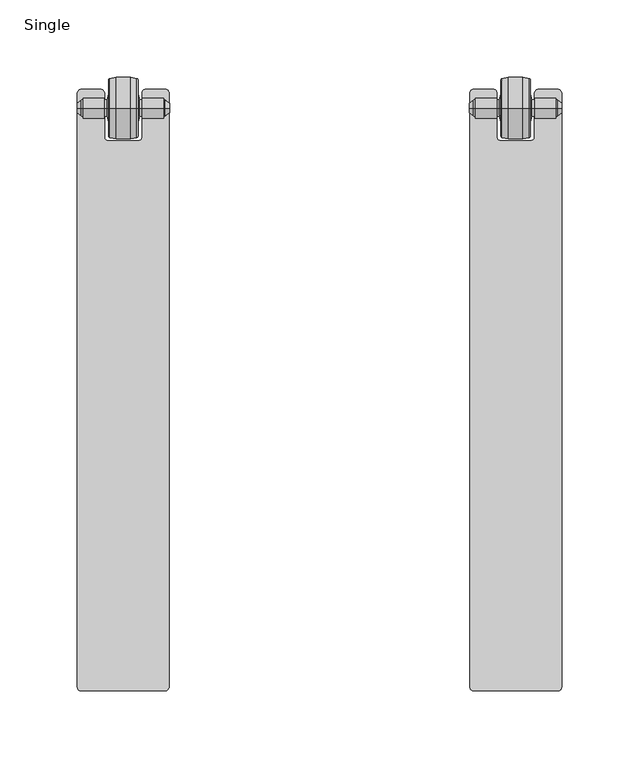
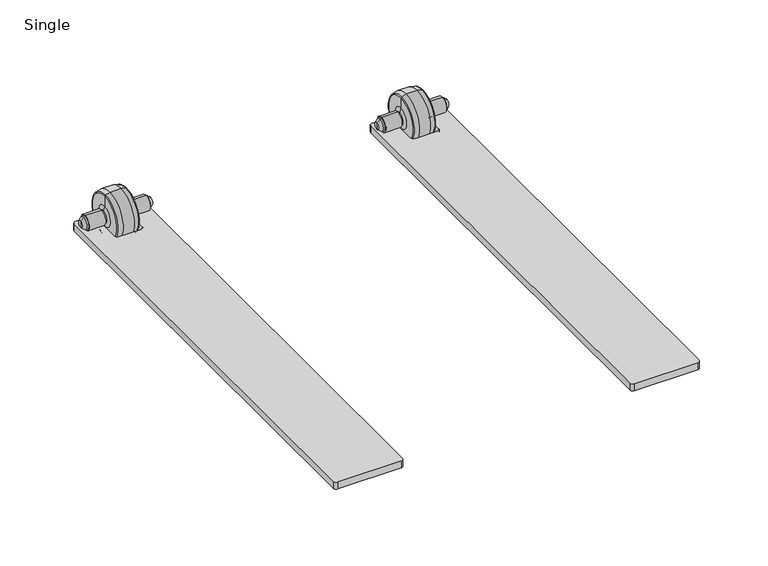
"""IFC4 building model written with IfcOpenShell, lengths in millimetres: furniture geometry, SmithSystem_AM_Seating_Education_Flowform_LearnLounge_MobileKit_Single : Single."""

from ifc_helpers import new_model, si_unit, point, frame, frame_2d, origin, place, context, project, spatial, polyline, circle_curve, ellipse_curve, trimmed, segment, composite_curve, outline, extrude, source, transform, mapped, element, save
from ifc_brep_helpers import plane_surface, cylinder_surface, revolved_surface, advanced_brep


def single_6dff62dc(model_context):
    return source(origin(), model_context, "Body", "SolidModel", [
        advanced_brep(
        [(-97.2897845, 203.2631744, 19.404882), (-97.2897845, 203.2631744, 25.6152221), (-97.2897845, 203.2631744, 22.510052), (-100.0247812, 203.2631744, 17.3341849), (-100.0247812, 203.2631744, 27.6859191), (-101.2986618, 203.2631744, 17.0165708), (-101.2986618, 203.2631744, 28.0035332), (-101.2986618, 203.2631744, 16.0005885), (-101.2986618, 203.2631744, 29.0195155), (-114.9542691, 203.2631744, 16.0005885), (-114.9542691, 203.2631744, 29.0195155), (-114.9542691, 203.2631744, 17.0204517), (-114.9542691, 203.2631744, 27.9996523), (-116.787195, 203.2631744, 17.0204517), (-116.787195, 203.2631744, 27.9996523), (-117.8042435, 203.2631744, 13.367798), (-117.8042435, 203.2631744, 31.652306), (-117.8042435, 203.2631744, 4.1761693), (-117.8042435, 203.2631744, 40.8439347), (-118.510082, 203.2631744, 3.2868443), (-118.510082, 203.2631744, 41.7332597), (-122.5542927, 203.2631744, 2.3439843), (-122.5542927, 203.2631744, 42.6761197), (-132.0543427, 203.2631744, 2.3439843), (-132.0543427, 203.2631744, 42.6761197), (-136.0985534, 203.2631744, 3.2868443), (-136.0985534, 203.2631744, 41.7332597), (-136.8043919, 203.2631744, 4.1761693), (-136.8043919, 203.2631744, 40.8439347), (-136.8043919, 203.2631744, 13.367798), (-136.8043919, 203.2631744, 31.652306), (-137.8214403, 203.2631744, 17.0204517), (-137.8214403, 203.2631744, 27.9996523), (-139.6543663, 203.2631744, 17.0204517), (-139.6543663, 203.2631744, 27.9996523), (-139.6543663, 203.2631744, 16.0005885), (-139.6543663, 203.2631744, 29.0195155), (-153.3099735, 203.2631744, 16.0005885), (-153.3099735, 203.2631744, 29.0195155), (-153.3099735, 203.2631744, 17.0165708), (-153.3099735, 203.2631744, 28.0035332), (-154.5838541, 203.2631744, 17.3341849), (-154.5838541, 203.2631744, 27.6859191), (-157.3188509, 203.2631744, 19.404882), (-157.3188509, 203.2631744, 25.6152221), (-157.3188509, 203.2631744, 22.510052)],
        [
            (0, 1, circle_curve(frame((-97.2897845, 203.2631744, 22.510052), z_axis=(1.0, 0.0, 0.0), x_axis=(0.0, 0.0, 1.0)), 3.1051701)),
            (1, 2),
            (2, 0),
            (1, 0, circle_curve(frame((-97.2897845, 203.2631744, 22.510052), z_axis=(1.0, 0.0, 0.0), x_axis=(0.0, 0.0, 1.0)), 3.1051701)),
            (3, 4, circle_curve(frame((-100.0247812, 203.2631744, 22.510052), z_axis=(1.0, 0.0, 0.0), x_axis=(0.0, 0.0, 1.0)), 5.1758671)),
            (4, 1),
            (0, 3),
            (4, 3, circle_curve(frame((-100.0247812, 203.2631744, 22.510052), z_axis=(1.0, 0.0, 0.0), x_axis=(0.0, 0.0, 1.0)), 5.1758671)),
            (5, 6, circle_curve(frame((-101.2986618, 203.2631744, 22.510052), z_axis=(1.0, 0.0, 0.0), x_axis=(0.0, 0.0, 1.0)), 5.4934812)),
            (6, 4),
            (3, 5),
            (6, 5, circle_curve(frame((-101.2986618, 203.2631744, 22.510052), z_axis=(1.0, 0.0, 0.0), x_axis=(0.0, 0.0, 1.0)), 5.4934812)),
            (7, 8, circle_curve(frame((-101.2986618, 203.2631744, 22.510052), z_axis=(1.0, 0.0, 0.0), x_axis=(0.0, 0.0, 1.0)), 6.5094635)),
            (8, 6),
            (5, 7),
            (8, 7, circle_curve(frame((-101.2986618, 203.2631744, 22.510052), z_axis=(1.0, 0.0, 0.0), x_axis=(0.0, 0.0, 1.0)), 6.5094635)),
            (9, 10, circle_curve(frame((-114.9542691, 203.2631744, 22.510052), z_axis=(1.0, 0.0, 0.0), x_axis=(0.0, 0.0, 1.0)), 6.5094635)),
            (10, 8),
            (7, 9),
            (10, 9, circle_curve(frame((-114.9542691, 203.2631744, 22.510052), z_axis=(1.0, 0.0, 0.0), x_axis=(0.0, 0.0, 1.0)), 6.5094635)),
            (11, 12, circle_curve(frame((-114.9542691, 203.2631744, 22.510052), z_axis=(1.0, 0.0, 0.0), x_axis=(0.0, 0.0, 1.0)), 5.4896003)),
            (12, 10),
            (9, 11),
            (12, 11, circle_curve(frame((-114.9542691, 203.2631744, 22.510052), z_axis=(1.0, 0.0, 0.0), x_axis=(0.0, 0.0, 1.0)), 5.4896003)),
            (13, 14, circle_curve(frame((-116.787195, 203.2631744, 22.510052), z_axis=(1.0, 0.0, 0.0), x_axis=(0.0, 0.0, 1.0)), 5.4896003)),
            (14, 12),
            (11, 13),
            (14, 13, circle_curve(frame((-116.787195, 203.2631744, 22.510052), z_axis=(1.0, 0.0, 0.0), x_axis=(0.0, 0.0, 1.0)), 5.4896003)),
            (15, 16, circle_curve(frame((-117.8042435, 203.2631744, 22.510052), z_axis=(1.0, 0.0, 0.0), x_axis=(0.0, 0.0, 1.0)), 9.142254)),
            (16, 14),
            (13, 15),
            (16, 15, circle_curve(frame((-117.8042435, 203.2631744, 22.510052), z_axis=(1.0, 0.0, 0.0), x_axis=(0.0, 0.0, 1.0)), 9.142254)),
            (17, 18, circle_curve(frame((-117.8042435, 203.2631744, 22.510052), z_axis=(1.0, 0.0, 0.0), x_axis=(0.0, 0.0, 1.0)), 18.3338827)),
            (18, 16),
            (15, 17),
            (18, 17, circle_curve(frame((-117.8042435, 203.2631744, 22.510052), z_axis=(1.0, 0.0, 0.0), x_axis=(0.0, 0.0, 1.0)), 18.3338827)),
            (19, 20, circle_curve(frame((-118.510082, 203.2631744, 22.510052), z_axis=(1.0, 0.0, 0.0), x_axis=(0.0, 0.0, 1.0)), 19.2232077)),
            (20, 18, circle_curve(frame((-118.7174176, 203.2631744, 40.8439347), z_axis=(0.0, 1.0, 0.0), x_axis=(1.0, 0.0, 0.0)), 0.9131741)),
            (17, 19, circle_curve(frame((-118.7174176, 203.2631744, 4.1761693), z_axis=(0.0, 1.0, 0.0), x_axis=(1.0, 0.0, 0.0)), 0.9131741)),
            (20, 19, circle_curve(frame((-118.510082, 203.2631744, 22.510052), z_axis=(1.0, 0.0, 0.0), x_axis=(0.0, 0.0, 1.0)), 19.2232077)),
            (21, 22, circle_curve(frame((-122.5542927, 203.2631744, 22.510052), z_axis=(1.0, 0.0, 0.0), x_axis=(0.0, 0.0, 1.0)), 20.1660677)),
            (22, 20),
            (19, 21),
            (22, 21, circle_curve(frame((-122.5542927, 203.2631744, 22.510052), z_axis=(1.0, 0.0, 0.0), x_axis=(0.0, 0.0, 1.0)), 20.1660677)),
            (23, 24, circle_curve(frame((-132.0543427, 203.2631744, 22.510052), z_axis=(1.0, 0.0, 0.0), x_axis=(0.0, 0.0, 1.0)), 20.1660677)),
            (24, 22),
            (21, 23),
            (24, 23, circle_curve(frame((-132.0543427, 203.2631744, 22.510052), z_axis=(1.0, 0.0, 0.0), x_axis=(0.0, 0.0, 1.0)), 20.1660677)),
            (25, 26, circle_curve(frame((-136.0985534, 203.2631744, 22.510052), z_axis=(1.0, 0.0, 0.0), x_axis=(0.0, 0.0, 1.0)), 19.2232077)),
            (26, 24),
            (23, 25),
            (26, 25, circle_curve(frame((-136.0985534, 203.2631744, 22.510052), z_axis=(1.0, 0.0, 0.0), x_axis=(0.0, 0.0, 1.0)), 19.2232077)),
            (27, 28, circle_curve(frame((-136.8043919, 203.2631744, 22.510052), z_axis=(1.0, 0.0, 0.0), x_axis=(0.0, 0.0, 1.0)), 18.3338827)),
            (28, 26, circle_curve(frame((-135.8912178, 203.2631744, 40.8439347), z_axis=(0.0, 1.0, 0.0), x_axis=(1.0, 0.0, 0.0)), 0.9131741)),
            (25, 27, circle_curve(frame((-135.8912178, 203.2631744, 4.1761693), z_axis=(0.0, 1.0, 0.0), x_axis=(1.0, 0.0, 0.0)), 0.9131741)),
            (28, 27, circle_curve(frame((-136.8043919, 203.2631744, 22.510052), z_axis=(1.0, 0.0, 0.0), x_axis=(0.0, 0.0, 1.0)), 18.3338827)),
            (29, 30, circle_curve(frame((-136.8043919, 203.2631744, 22.510052), z_axis=(1.0, 0.0, 0.0), x_axis=(0.0, 0.0, 1.0)), 9.142254)),
            (30, 28),
            (27, 29),
            (30, 29, circle_curve(frame((-136.8043919, 203.2631744, 22.510052), z_axis=(1.0, 0.0, 0.0), x_axis=(0.0, 0.0, 1.0)), 9.142254)),
            (31, 32, circle_curve(frame((-137.8214403, 203.2631744, 22.510052), z_axis=(1.0, 0.0, 0.0), x_axis=(0.0, 0.0, 1.0)), 5.4896003)),
            (32, 30),
            (29, 31),
            (32, 31, circle_curve(frame((-137.8214403, 203.2631744, 22.510052), z_axis=(1.0, 0.0, 0.0), x_axis=(0.0, 0.0, 1.0)), 5.4896003)),
            (33, 34, circle_curve(frame((-139.6543663, 203.2631744, 22.510052), z_axis=(1.0, 0.0, 0.0), x_axis=(0.0, 0.0, 1.0)), 5.4896003)),
            (34, 32),
            (31, 33),
            (34, 33, circle_curve(frame((-139.6543663, 203.2631744, 22.510052), z_axis=(1.0, 0.0, 0.0), x_axis=(0.0, 0.0, 1.0)), 5.4896003)),
            (35, 36, circle_curve(frame((-139.6543663, 203.2631744, 22.510052), z_axis=(1.0, 0.0, 0.0), x_axis=(0.0, 0.0, 1.0)), 6.5094635)),
            (36, 34),
            (33, 35),
            (36, 35, circle_curve(frame((-139.6543663, 203.2631744, 22.510052), z_axis=(1.0, 0.0, 0.0), x_axis=(0.0, 0.0, 1.0)), 6.5094635)),
            (37, 38, circle_curve(frame((-153.3099735, 203.2631744, 22.510052), z_axis=(1.0, 0.0, 0.0), x_axis=(0.0, 0.0, 1.0)), 6.5094635)),
            (38, 36),
            (35, 37),
            (38, 37, circle_curve(frame((-153.3099735, 203.2631744, 22.510052), z_axis=(1.0, 0.0, 0.0), x_axis=(0.0, 0.0, 1.0)), 6.5094635)),
            (39, 40, circle_curve(frame((-153.3099735, 203.2631744, 22.510052), z_axis=(1.0, 0.0, 0.0), x_axis=(0.0, 0.0, 1.0)), 5.4934812)),
            (40, 38),
            (37, 39),
            (40, 39, circle_curve(frame((-153.3099735, 203.2631744, 22.510052), z_axis=(1.0, 0.0, 0.0), x_axis=(0.0, 0.0, 1.0)), 5.4934812)),
            (41, 42, circle_curve(frame((-154.5838541, 203.2631744, 22.510052), z_axis=(1.0, 0.0, 0.0), x_axis=(0.0, 0.0, 1.0)), 5.1758671)),
            (42, 40),
            (39, 41),
            (42, 41, circle_curve(frame((-154.5838541, 203.2631744, 22.510052), z_axis=(1.0, 0.0, 0.0), x_axis=(0.0, 0.0, 1.0)), 5.1758671)),
            (43, 44, circle_curve(frame((-157.3188509, 203.2631744, 22.510052), z_axis=(1.0, 0.0, 0.0), x_axis=(0.0, 0.0, 1.0)), 3.1051701)),
            (44, 42),
            (41, 43),
            (44, 43, circle_curve(frame((-157.3188509, 203.2631744, 22.510052), z_axis=(1.0, 0.0, 0.0), x_axis=(0.0, 0.0, 1.0)), 3.1051701)),
            (45, 44),
            (43, 45),
        ],
        [
            plane_surface(frame((-97.2897845, 203.2631744, 22.510052), z_axis=(1.0, 0.0, 0.0), x_axis=(0.0, 0.0, 1.0))),
            revolved_surface(polyline([(-97.2897845, 203.2631744, 25.6152221), (-100.0247812, 203.2631744, 27.6859191)]), (-161.4201897, 203.2631744, 22.510052), (-1.0, 0.0, 0.0)),
            revolved_surface(polyline([(-100.0247812, 203.2631744, 27.6859191), (-101.2986618, 203.2631744, 28.0035332)]), (-161.4201897, 203.2631744, 22.510052), (-1.0, 0.0, 0.0)),
            plane_surface(frame((-101.2986618, 203.2631744, 22.510052), z_axis=(1.0, 0.0, 0.0), x_axis=(0.0, 0.0, 1.0))),
            cylinder_surface(frame((-161.4201897, 203.2631744, 22.510052), z_axis=(-1.0, 0.0, 0.0), x_axis=(0.0, 0.0, 1.0)), 6.5094635),
            plane_surface(frame((-114.9542691, 203.2631744, 22.510052), z_axis=(-1.0, 0.0, 0.0), x_axis=(0.0, 0.0, 1.0))),
            cylinder_surface(frame((-161.4201897, 203.2631744, 22.510052), z_axis=(-1.0, 0.0, 0.0), x_axis=(0.0, 0.0, 1.0)), 5.4896003),
            revolved_surface(polyline([(-116.787195, 203.2631744, 27.9996523), (-117.8042435, 203.2631744, 31.652306)]), (-161.4201897, 203.2631744, 22.510052), (-1.0, 0.0, 0.0)),
            plane_surface(frame((-117.8042435, 203.2631744, 22.510052), z_axis=(1.0, 0.0, 0.0), x_axis=(0.0, 0.0, 1.0))),
            revolved_surface(trimmed(ellipse_curve(frame((-118.7174176, 203.2631744, 40.8439347), z_axis=(0.0, -1.0, 0.0), x_axis=(1.0, 0.0, 0.0)), 0.9131741, 0.9131741), [point((-117.8042435, 203.2631744, 40.8439347))], [point((-118.510082, 203.2631744, 41.7332597))], True, "CARTESIAN"), (-161.4201897, 203.2631744, 22.510052), (-1.0, 0.0, 0.0)),
            revolved_surface(polyline([(-118.510082, 203.2631744, 41.7332597), (-122.5542927, 203.2631744, 42.6761197)]), (-161.4201897, 203.2631744, 22.510052), (-1.0, 0.0, 0.0)),
            cylinder_surface(frame((-161.4201897, 203.2631744, 22.510052), z_axis=(-1.0, 0.0, 0.0), x_axis=(0.0, 0.0, 1.0)), 20.1660677),
            revolved_surface(polyline([(-132.0543427, 203.2631744, 42.6761197), (-136.0985534, 203.2631744, 41.7332597)]), (-161.4201897, 203.2631744, 22.510052), (-1.0, 0.0, 0.0)),
            revolved_surface(trimmed(ellipse_curve(frame((-135.8912178, 203.2631744, 40.8439347), z_axis=(0.0, -1.0, 0.0), x_axis=(1.0, 0.0, 0.0)), 0.9131741, 0.9131741), [point((-136.0985534, 203.2631744, 41.7332597))], [point((-136.8043919, 203.2631744, 40.8439347))], True, "CARTESIAN"), (-161.4201897, 203.2631744, 22.510052), (-1.0, 0.0, 0.0)),
            plane_surface(frame((-136.8043919, 203.2631744, 22.510052), z_axis=(-1.0, 0.0, 0.0), x_axis=(0.0, 0.0, 1.0))),
            revolved_surface(polyline([(-136.8043919, 203.2631744, 31.652306), (-137.8214403, 203.2631744, 27.9996523)]), (-161.4201897, 203.2631744, 22.510052), (-1.0, 0.0, 0.0)),
            plane_surface(frame((-139.6543663, 203.2631744, 22.510052), z_axis=(1.0, 0.0, 0.0), x_axis=(0.0, 0.0, 1.0))),
            plane_surface(frame((-153.3099735, 203.2631744, 22.510052), z_axis=(-1.0, 0.0, 0.0), x_axis=(0.0, 0.0, 1.0))),
            revolved_surface(polyline([(-153.3099735, 203.2631744, 28.0035332), (-154.5838541, 203.2631744, 27.6859191)]), (-161.4201897, 203.2631744, 22.510052), (-1.0, 0.0, 0.0)),
            revolved_surface(polyline([(-154.5838541, 203.2631744, 27.6859191), (-157.3188509, 203.2631744, 25.6152221)]), (-161.4201897, 203.2631744, 22.510052), (-1.0, 0.0, 0.0)),
            plane_surface(frame((-157.3188509, 203.2631744, 22.510052), z_axis=(-1.0, 0.0, 0.0), x_axis=(0.0, 0.0, 1.0))),
        ],
        [
            (0, [[1, 2, 3]]),
            (0, [[4, -3, -2]]),
            (1, [[5, 6, -1, 7]]),
            (1, [[8, -7, -4, -6]]),
            (2, [[9, 10, -5, 11]]),
            (2, [[12, -11, -8, -10]]),
            (3, [[13, 14, -9, 15]]),
            (3, [[16, -15, -12, -14]]),
            (4, [[17, 18, -13, 19]]),
            (4, [[20, -19, -16, -18]]),
            (5, [[21, 22, -17, 23]]),
            (5, [[24, -23, -20, -22]]),
            (6, [[25, 26, -21, 27]]),
            (6, [[28, -27, -24, -26]]),
            (7, [[29, 30, -25, 31]]),
            (7, [[32, -31, -28, -30]]),
            (8, [[33, 34, -29, 35]]),
            (8, [[36, -35, -32, -34]]),
            (9, [[37, 38, -33, 39]]),
            (9, [[40, -39, -36, -38]]),
            (10, [[41, 42, -37, 43]]),
            (10, [[44, -43, -40, -42]]),
            (11, [[45, 46, -41, 47]]),
            (11, [[48, -47, -44, -46]]),
            (12, [[49, 50, -45, 51]]),
            (12, [[52, -51, -48, -50]]),
            (13, [[53, 54, -49, 55]]),
            (13, [[56, -55, -52, -54]]),
            (14, [[57, 58, -53, 59]]),
            (14, [[60, -59, -56, -58]]),
            (15, [[61, 62, -57, 63]]),
            (15, [[64, -63, -60, -62]]),
            (6, [[65, 66, -61, 67]]),
            (6, [[68, -67, -64, -66]]),
            (16, [[69, 70, -65, 71]]),
            (16, [[72, -71, -68, -70]]),
            (4, [[73, 74, -69, 75]]),
            (4, [[76, -75, -72, -74]]),
            (17, [[77, 78, -73, 79]]),
            (17, [[80, -79, -76, -78]]),
            (18, [[81, 82, -77, 83]]),
            (18, [[84, -83, -80, -82]]),
            (19, [[85, 86, -81, 87]]),
            (19, [[88, -87, -84, -86]]),
            (20, [[89, -85, 90]]),
            (20, [[-90, -88, -89]]),
        ],
    ),
        advanced_brep(
        [(157.3188509, 203.2631744, 19.404882), (157.3188509, 203.2631744, 25.6152221), (157.3188509, 203.2631744, 22.510052), (154.5838541, 203.2631744, 17.3341849), (154.5838541, 203.2631744, 27.6859191), (153.3099735, 203.2631744, 17.0165708), (153.3099735, 203.2631744, 28.0035332), (153.3099735, 203.2631744, 16.0005885), (153.3099735, 203.2631744, 29.0195155), (139.6543663, 203.2631744, 16.0005885), (139.6543663, 203.2631744, 29.0195155), (139.6543663, 203.2631744, 17.0204517), (139.6543663, 203.2631744, 27.9996523), (137.8214403, 203.2631744, 17.0204517), (137.8214403, 203.2631744, 27.9996523), (136.8043919, 203.2631744, 13.367798), (136.8043919, 203.2631744, 31.652306), (136.8043919, 203.2631744, 4.1761693), (136.8043919, 203.2631744, 40.8439347), (136.0985534, 203.2631744, 3.2868443), (136.0985534, 203.2631744, 41.7332597), (132.0543427, 203.2631744, 2.3439843), (132.0543427, 203.2631744, 42.6761197), (122.5542927, 203.2631744, 2.3439843), (122.5542927, 203.2631744, 42.6761197), (118.510082, 203.2631744, 3.2868443), (118.510082, 203.2631744, 41.7332597), (117.8042435, 203.2631744, 4.1761693), (117.8042435, 203.2631744, 40.8439347), (117.8042435, 203.2631744, 13.367798), (117.8042435, 203.2631744, 31.652306), (116.787195, 203.2631744, 17.0204517), (116.787195, 203.2631744, 27.9996523), (114.9542691, 203.2631744, 17.0204517), (114.9542691, 203.2631744, 27.9996523), (114.9542691, 203.2631744, 16.0005885), (114.9542691, 203.2631744, 29.0195155), (101.2986618, 203.2631744, 16.0005885), (101.2986618, 203.2631744, 29.0195155), (101.2986618, 203.2631744, 17.0165708), (101.2986618, 203.2631744, 28.0035332), (100.0247812, 203.2631744, 17.3341849), (100.0247812, 203.2631744, 27.6859191), (97.2897845, 203.2631744, 19.404882), (97.2897845, 203.2631744, 25.6152221), (97.2897845, 203.2631744, 22.510052)],
        [
            (0, 1, circle_curve(frame((157.3188509, 203.2631744, 22.510052), z_axis=(1.0, 0.0, 0.0), x_axis=(0.0, 0.0, 1.0)), 3.1051701)),
            (1, 2),
            (2, 0),
            (1, 0, circle_curve(frame((157.3188509, 203.2631744, 22.510052), z_axis=(1.0, 0.0, 0.0), x_axis=(0.0, 0.0, 1.0)), 3.1051701)),
            (3, 4, circle_curve(frame((154.5838541, 203.2631744, 22.510052), z_axis=(1.0, 0.0, 0.0), x_axis=(0.0, 0.0, 1.0)), 5.1758671)),
            (4, 1),
            (0, 3),
            (4, 3, circle_curve(frame((154.5838541, 203.2631744, 22.510052), z_axis=(1.0, 0.0, 0.0), x_axis=(0.0, 0.0, 1.0)), 5.1758671)),
            (5, 6, circle_curve(frame((153.3099735, 203.2631744, 22.510052), z_axis=(1.0, 0.0, 0.0), x_axis=(0.0, 0.0, 1.0)), 5.4934812)),
            (6, 4),
            (3, 5),
            (6, 5, circle_curve(frame((153.3099735, 203.2631744, 22.510052), z_axis=(1.0, 0.0, 0.0), x_axis=(0.0, 0.0, 1.0)), 5.4934812)),
            (7, 8, circle_curve(frame((153.3099735, 203.2631744, 22.510052), z_axis=(1.0, 0.0, 0.0), x_axis=(0.0, 0.0, 1.0)), 6.5094635)),
            (8, 6),
            (5, 7),
            (8, 7, circle_curve(frame((153.3099735, 203.2631744, 22.510052), z_axis=(1.0, 0.0, 0.0), x_axis=(0.0, 0.0, 1.0)), 6.5094635)),
            (9, 10, circle_curve(frame((139.6543663, 203.2631744, 22.510052), z_axis=(1.0, 0.0, 0.0), x_axis=(0.0, 0.0, 1.0)), 6.5094635)),
            (10, 8),
            (7, 9),
            (10, 9, circle_curve(frame((139.6543663, 203.2631744, 22.510052), z_axis=(1.0, 0.0, 0.0), x_axis=(0.0, 0.0, 1.0)), 6.5094635)),
            (11, 12, circle_curve(frame((139.6543663, 203.2631744, 22.510052), z_axis=(1.0, 0.0, 0.0), x_axis=(0.0, 0.0, 1.0)), 5.4896003)),
            (12, 10),
            (9, 11),
            (12, 11, circle_curve(frame((139.6543663, 203.2631744, 22.510052), z_axis=(1.0, 0.0, 0.0), x_axis=(0.0, 0.0, 1.0)), 5.4896003)),
            (13, 14, circle_curve(frame((137.8214403, 203.2631744, 22.510052), z_axis=(1.0, 0.0, 0.0), x_axis=(0.0, 0.0, 1.0)), 5.4896003)),
            (14, 12),
            (11, 13),
            (14, 13, circle_curve(frame((137.8214403, 203.2631744, 22.510052), z_axis=(1.0, 0.0, 0.0), x_axis=(0.0, 0.0, 1.0)), 5.4896003)),
            (15, 16, circle_curve(frame((136.8043919, 203.2631744, 22.510052), z_axis=(1.0, 0.0, 0.0), x_axis=(0.0, 0.0, 1.0)), 9.142254)),
            (16, 14),
            (13, 15),
            (16, 15, circle_curve(frame((136.8043919, 203.2631744, 22.510052), z_axis=(1.0, 0.0, 0.0), x_axis=(0.0, 0.0, 1.0)), 9.142254)),
            (17, 18, circle_curve(frame((136.8043919, 203.2631744, 22.510052), z_axis=(1.0, 0.0, 0.0), x_axis=(0.0, 0.0, 1.0)), 18.3338827)),
            (18, 16),
            (15, 17),
            (18, 17, circle_curve(frame((136.8043919, 203.2631744, 22.510052), z_axis=(1.0, 0.0, 0.0), x_axis=(0.0, 0.0, 1.0)), 18.3338827)),
            (19, 20, circle_curve(frame((136.0985534, 203.2631744, 22.510052), z_axis=(1.0, 0.0, 0.0), x_axis=(0.0, 0.0, 1.0)), 19.2232077)),
            (20, 18, circle_curve(frame((135.8912178, 203.2631744, 40.8439347), z_axis=(0.0, 1.0, 0.0), x_axis=(1.0, 0.0, 0.0)), 0.9131741)),
            (17, 19, circle_curve(frame((135.8912178, 203.2631744, 4.1761693), z_axis=(0.0, 1.0, 0.0), x_axis=(1.0, 0.0, 0.0)), 0.9131741)),
            (20, 19, circle_curve(frame((136.0985534, 203.2631744, 22.510052), z_axis=(1.0, 0.0, 0.0), x_axis=(0.0, 0.0, 1.0)), 19.2232077)),
            (21, 22, circle_curve(frame((132.0543427, 203.2631744, 22.510052), z_axis=(1.0, 0.0, 0.0), x_axis=(0.0, 0.0, 1.0)), 20.1660677)),
            (22, 20),
            (19, 21),
            (22, 21, circle_curve(frame((132.0543427, 203.2631744, 22.510052), z_axis=(1.0, 0.0, 0.0), x_axis=(0.0, 0.0, 1.0)), 20.1660677)),
            (23, 24, circle_curve(frame((122.5542927, 203.2631744, 22.510052), z_axis=(1.0, 0.0, 0.0), x_axis=(0.0, 0.0, 1.0)), 20.1660677)),
            (24, 22),
            (21, 23),
            (24, 23, circle_curve(frame((122.5542927, 203.2631744, 22.510052), z_axis=(1.0, 0.0, 0.0), x_axis=(0.0, 0.0, 1.0)), 20.1660677)),
            (25, 26, circle_curve(frame((118.510082, 203.2631744, 22.510052), z_axis=(1.0, 0.0, 0.0), x_axis=(0.0, 0.0, 1.0)), 19.2232077)),
            (26, 24),
            (23, 25),
            (26, 25, circle_curve(frame((118.510082, 203.2631744, 22.510052), z_axis=(1.0, 0.0, 0.0), x_axis=(0.0, 0.0, 1.0)), 19.2232077)),
            (27, 28, circle_curve(frame((117.8042435, 203.2631744, 22.510052), z_axis=(1.0, 0.0, 0.0), x_axis=(0.0, 0.0, 1.0)), 18.3338827)),
            (28, 26, circle_curve(frame((118.7174176, 203.2631744, 40.8439347), z_axis=(0.0, 1.0, 0.0), x_axis=(1.0, 0.0, 0.0)), 0.9131741)),
            (25, 27, circle_curve(frame((118.7174176, 203.2631744, 4.1761693), z_axis=(0.0, 1.0, 0.0), x_axis=(1.0, 0.0, 0.0)), 0.9131741)),
            (28, 27, circle_curve(frame((117.8042435, 203.2631744, 22.510052), z_axis=(1.0, 0.0, 0.0), x_axis=(0.0, 0.0, 1.0)), 18.3338827)),
            (29, 30, circle_curve(frame((117.8042435, 203.2631744, 22.510052), z_axis=(1.0, 0.0, 0.0), x_axis=(0.0, 0.0, 1.0)), 9.142254)),
            (30, 28),
            (27, 29),
            (30, 29, circle_curve(frame((117.8042435, 203.2631744, 22.510052), z_axis=(1.0, 0.0, 0.0), x_axis=(0.0, 0.0, 1.0)), 9.142254)),
            (31, 32, circle_curve(frame((116.787195, 203.2631744, 22.510052), z_axis=(1.0, 0.0, 0.0), x_axis=(0.0, 0.0, 1.0)), 5.4896003)),
            (32, 30),
            (29, 31),
            (32, 31, circle_curve(frame((116.787195, 203.2631744, 22.510052), z_axis=(1.0, 0.0, 0.0), x_axis=(0.0, 0.0, 1.0)), 5.4896003)),
            (33, 34, circle_curve(frame((114.9542691, 203.2631744, 22.510052), z_axis=(1.0, 0.0, 0.0), x_axis=(0.0, 0.0, 1.0)), 5.4896003)),
            (34, 32),
            (31, 33),
            (34, 33, circle_curve(frame((114.9542691, 203.2631744, 22.510052), z_axis=(1.0, 0.0, 0.0), x_axis=(0.0, 0.0, 1.0)), 5.4896003)),
            (35, 36, circle_curve(frame((114.9542691, 203.2631744, 22.510052), z_axis=(1.0, 0.0, 0.0), x_axis=(0.0, 0.0, 1.0)), 6.5094635)),
            (36, 34),
            (33, 35),
            (36, 35, circle_curve(frame((114.9542691, 203.2631744, 22.510052), z_axis=(1.0, 0.0, 0.0), x_axis=(0.0, 0.0, 1.0)), 6.5094635)),
            (37, 38, circle_curve(frame((101.2986618, 203.2631744, 22.510052), z_axis=(1.0, 0.0, 0.0), x_axis=(0.0, 0.0, 1.0)), 6.5094635)),
            (38, 36),
            (35, 37),
            (38, 37, circle_curve(frame((101.2986618, 203.2631744, 22.510052), z_axis=(1.0, 0.0, 0.0), x_axis=(0.0, 0.0, 1.0)), 6.5094635)),
            (39, 40, circle_curve(frame((101.2986618, 203.2631744, 22.510052), z_axis=(1.0, 0.0, 0.0), x_axis=(0.0, 0.0, 1.0)), 5.4934812)),
            (40, 38),
            (37, 39),
            (40, 39, circle_curve(frame((101.2986618, 203.2631744, 22.510052), z_axis=(1.0, 0.0, 0.0), x_axis=(0.0, 0.0, 1.0)), 5.4934812)),
            (41, 42, circle_curve(frame((100.0247812, 203.2631744, 22.510052), z_axis=(1.0, 0.0, 0.0), x_axis=(0.0, 0.0, 1.0)), 5.1758671)),
            (42, 40),
            (39, 41),
            (42, 41, circle_curve(frame((100.0247812, 203.2631744, 22.510052), z_axis=(1.0, 0.0, 0.0), x_axis=(0.0, 0.0, 1.0)), 5.1758671)),
            (43, 44, circle_curve(frame((97.2897845, 203.2631744, 22.510052), z_axis=(1.0, 0.0, 0.0), x_axis=(0.0, 0.0, 1.0)), 3.1051701)),
            (44, 42),
            (41, 43),
            (44, 43, circle_curve(frame((97.2897845, 203.2631744, 22.510052), z_axis=(1.0, 0.0, 0.0), x_axis=(0.0, 0.0, 1.0)), 3.1051701)),
            (45, 44),
            (43, 45),
        ],
        [
            plane_surface(frame((157.3188509, 203.2631744, 22.510052), z_axis=(1.0, 0.0, 0.0), x_axis=(0.0, 0.0, 1.0))),
            revolved_surface(polyline([(157.3188509, 203.2631744, 25.6152221), (154.5838541, 203.2631744, 27.6859191)]), (-161.4201897, 203.2631744, 22.510052), (-1.0, 0.0, 0.0)),
            revolved_surface(polyline([(154.5838541, 203.2631744, 27.6859191), (153.3099735, 203.2631744, 28.0035332)]), (-161.4201897, 203.2631744, 22.510052), (-1.0, 0.0, 0.0)),
            plane_surface(frame((153.3099735, 203.2631744, 22.510052), z_axis=(1.0, 0.0, 0.0), x_axis=(0.0, 0.0, 1.0))),
            cylinder_surface(frame((-161.4201897, 203.2631744, 22.510052), z_axis=(-1.0, 0.0, 0.0), x_axis=(0.0, 0.0, 1.0)), 6.5094635),
            plane_surface(frame((139.6543663, 203.2631744, 22.510052), z_axis=(-1.0, 0.0, 0.0), x_axis=(0.0, 0.0, 1.0))),
            cylinder_surface(frame((-161.4201897, 203.2631744, 22.510052), z_axis=(-1.0, 0.0, 0.0), x_axis=(0.0, 0.0, 1.0)), 5.4896003),
            revolved_surface(polyline([(137.8214403, 203.2631744, 27.9996523), (136.8043919, 203.2631744, 31.652306)]), (-161.4201897, 203.2631744, 22.510052), (-1.0, 0.0, 0.0)),
            plane_surface(frame((136.8043919, 203.2631744, 22.510052), z_axis=(1.0, 0.0, 0.0), x_axis=(0.0, 0.0, 1.0))),
            revolved_surface(trimmed(ellipse_curve(frame((135.8912178, 203.2631744, 40.8439347), z_axis=(0.0, -1.0, 0.0), x_axis=(1.0, 0.0, 0.0)), 0.9131741, 0.9131741), [point((136.8043919, 203.2631744, 40.8439347))], [point((136.0985534, 203.2631744, 41.7332597))], True, "CARTESIAN"), (-161.4201897, 203.2631744, 22.510052), (-1.0, 0.0, 0.0)),
            revolved_surface(polyline([(136.0985534, 203.2631744, 41.7332597), (132.0543427, 203.2631744, 42.6761197)]), (-161.4201897, 203.2631744, 22.510052), (-1.0, 0.0, 0.0)),
            cylinder_surface(frame((-161.4201897, 203.2631744, 22.510052), z_axis=(-1.0, 0.0, 0.0), x_axis=(0.0, 0.0, 1.0)), 20.1660677),
            revolved_surface(polyline([(122.5542927, 203.2631744, 42.6761197), (118.510082, 203.2631744, 41.7332597)]), (-161.4201897, 203.2631744, 22.510052), (-1.0, 0.0, 0.0)),
            revolved_surface(trimmed(ellipse_curve(frame((118.7174176, 203.2631744, 40.8439347), z_axis=(0.0, -1.0, 0.0), x_axis=(1.0, 0.0, 0.0)), 0.9131741, 0.9131741), [point((118.510082, 203.2631744, 41.7332597))], [point((117.8042435, 203.2631744, 40.8439347))], True, "CARTESIAN"), (-161.4201897, 203.2631744, 22.510052), (-1.0, 0.0, 0.0)),
            plane_surface(frame((117.8042435, 203.2631744, 22.510052), z_axis=(-1.0, 0.0, 0.0), x_axis=(0.0, 0.0, 1.0))),
            revolved_surface(polyline([(117.8042435, 203.2631744, 31.652306), (116.787195, 203.2631744, 27.9996523)]), (-161.4201897, 203.2631744, 22.510052), (-1.0, 0.0, 0.0)),
            plane_surface(frame((114.9542691, 203.2631744, 22.510052), z_axis=(1.0, 0.0, 0.0), x_axis=(0.0, 0.0, 1.0))),
            plane_surface(frame((101.2986618, 203.2631744, 22.510052), z_axis=(-1.0, 0.0, 0.0), x_axis=(0.0, 0.0, 1.0))),
            revolved_surface(polyline([(101.2986618, 203.2631744, 28.0035332), (100.0247812, 203.2631744, 27.6859191)]), (-161.4201897, 203.2631744, 22.510052), (-1.0, 0.0, 0.0)),
            revolved_surface(polyline([(100.0247812, 203.2631744, 27.6859191), (97.2897845, 203.2631744, 25.6152221)]), (-161.4201897, 203.2631744, 22.510052), (-1.0, 0.0, 0.0)),
            plane_surface(frame((97.2897845, 203.2631744, 22.510052), z_axis=(-1.0, 0.0, 0.0), x_axis=(0.0, 0.0, 1.0))),
        ],
        [
            (0, [[1, 2, 3]]),
            (0, [[4, -3, -2]]),
            (1, [[5, 6, -1, 7]]),
            (1, [[8, -7, -4, -6]]),
            (2, [[9, 10, -5, 11]]),
            (2, [[12, -11, -8, -10]]),
            (3, [[13, 14, -9, 15]]),
            (3, [[16, -15, -12, -14]]),
            (4, [[17, 18, -13, 19]]),
            (4, [[20, -19, -16, -18]]),
            (5, [[21, 22, -17, 23]]),
            (5, [[24, -23, -20, -22]]),
            (6, [[25, 26, -21, 27]]),
            (6, [[28, -27, -24, -26]]),
            (7, [[29, 30, -25, 31]]),
            (7, [[32, -31, -28, -30]]),
            (8, [[33, 34, -29, 35]]),
            (8, [[36, -35, -32, -34]]),
            (9, [[37, 38, -33, 39]]),
            (9, [[40, -39, -36, -38]]),
            (10, [[41, 42, -37, 43]]),
            (10, [[44, -43, -40, -42]]),
            (11, [[45, 46, -41, 47]]),
            (11, [[48, -47, -44, -46]]),
            (12, [[49, 50, -45, 51]]),
            (12, [[52, -51, -48, -50]]),
            (13, [[53, 54, -49, 55]]),
            (13, [[56, -55, -52, -54]]),
            (14, [[57, 58, -53, 59]]),
            (14, [[60, -59, -56, -58]]),
            (15, [[61, 62, -57, 63]]),
            (15, [[64, -63, -60, -62]]),
            (6, [[65, 66, -61, 67]]),
            (6, [[68, -67, -64, -66]]),
            (16, [[69, 70, -65, 71]]),
            (16, [[72, -71, -68, -70]]),
            (4, [[73, 74, -69, 75]]),
            (4, [[76, -75, -72, -74]]),
            (17, [[77, 78, -73, 79]]),
            (17, [[80, -79, -76, -78]]),
            (18, [[81, 82, -77, 83]]),
            (18, [[84, -83, -80, -82]]),
            (19, [[85, 86, -81, 87]]),
            (19, [[88, -87, -84, -86]]),
            (20, [[89, -85, 90]]),
            (20, [[-90, -88, -89]]),
        ],
    ),
        extrude(outline(composite_curve([segment(trimmed(circle_curve(frame_2d((-154.5480998, 212.8068621)), 2.6162351), [point((-157.1643349, 212.8068621))], [point((-154.5480998, 215.4230972))], False, "CARTESIAN"), True, "CONTINUOUS"), segment(polyline([(-154.5480998, 215.4230972), (-142.1174772, 215.4230972)]), True, "CONTINUOUS"), segment(trimmed(circle_curve(frame_2d((-142.1174772, 212.7832528)), 2.6398444), [point((-142.1174772, 215.4230972))], [point((-139.4776329, 212.7832528))], False, "CARTESIAN"), True, "CONTINUOUS"), segment(polyline([(-139.4776329, 212.7832528), (-139.4776329, 184.5583908)]), True, "CONTINUOUS"), segment(trimmed(circle_curve(frame_2d((-137.005893, 184.5583908)), 2.4717399), [point((-139.4776329, 184.5583908))], [point((-137.005893, 182.0866509))], True, "CARTESIAN"), True, "CONTINUOUS"), segment(polyline([(-137.005893, 182.0866509), (-117.7376405, 182.0866509)]), True, "CONTINUOUS"), segment(trimmed(circle_curve(frame_2d((-117.7376405, 184.7023485)), 2.6156976), [point((-117.7376405, 182.0866509))], [point((-115.1219429, 184.7023485))], True, "CARTESIAN"), True, "CONTINUOUS"), segment(polyline([(-115.1219429, 184.7023485), (-115.1219429, 212.9939145)]), True, "CONTINUOUS"), segment(trimmed(circle_curve(frame_2d((-112.6927603, 212.9939145)), 2.4291827), [point((-115.1219429, 212.9939145))], [point((-112.6927603, 215.4230972))], False, "CARTESIAN"), True, "CONTINUOUS"), segment(polyline([(-112.6927603, 215.4230972), (-100.1516884, 215.4230972)]), True, "CONTINUOUS"), segment(trimmed(circle_curve(frame_2d((-100.1516884, 212.9190368)), 2.5040604), [point((-100.1516884, 215.4230972))], [point((-97.647628, 212.9190368))], False, "CARTESIAN"), True, "CONTINUOUS"), segment(polyline([(-97.647628, 212.9190368), (-97.647628, -172.113524)]), True, "CONTINUOUS"), segment(trimmed(circle_curve(frame_2d((-100.195336, -172.113524)), 2.547708), [point((-97.647628, -172.113524))], [point((-100.195336, -174.661232))], False, "CARTESIAN"), True, "CONTINUOUS"), segment(polyline([(-100.195336, -174.661232), (-154.6436864, -174.661232)]), True, "CONTINUOUS"), segment(trimmed(circle_curve(frame_2d((-154.6436864, -172.121232)), 2.54), [point((-154.6436864, -174.661232))], [point((-157.1643349, -172.4341713))], False, "CARTESIAN"), True, "CONTINUOUS"), segment(polyline([(-157.1643349, -172.4341713), (-157.1643349, 212.8068621)]), True, "CONTINUOUS")], self_intersect=False)), frame((0.0, 0.0, 10.1600641), z_axis=(0.0, 0.0, 1.0), x_axis=(1.0, 0.0, 0.0)), (0.0, 0.0, 1.0), 6.3754001),
        extrude(outline(composite_curve([segment(polyline([(157.1643349, 212.8068621), (157.1643349, -172.4341713)]), True, "CONTINUOUS"), segment(trimmed(circle_curve(frame_2d((154.6436864, -172.121232)), 2.54), [point((157.1643349, -172.4341713))], [point((154.6436864, -174.661232))], False, "CARTESIAN"), True, "CONTINUOUS"), segment(polyline([(154.6436864, -174.661232), (100.195336, -174.661232)]), True, "CONTINUOUS"), segment(trimmed(circle_curve(frame_2d((100.195336, -172.113524)), 2.547708), [point((100.195336, -174.661232))], [point((97.647628, -172.113524))], False, "CARTESIAN"), True, "CONTINUOUS"), segment(polyline([(97.647628, -172.113524), (97.647628, 212.9190368)]), True, "CONTINUOUS"), segment(trimmed(circle_curve(frame_2d((100.1516884, 212.9190368)), 2.5040604), [point((97.647628, 212.9190368))], [point((100.1516884, 215.4230972))], False, "CARTESIAN"), True, "CONTINUOUS"), segment(polyline([(100.1516884, 215.4230972), (112.6927603, 215.4230972)]), True, "CONTINUOUS"), segment(trimmed(circle_curve(frame_2d((112.6927603, 212.9939145)), 2.4291827), [point((112.6927603, 215.4230972))], [point((115.1219429, 212.9939145))], False, "CARTESIAN"), True, "CONTINUOUS"), segment(polyline([(115.1219429, 212.9939145), (115.1219429, 184.7023485)]), True, "CONTINUOUS"), segment(trimmed(circle_curve(frame_2d((117.7376405, 184.7023485)), 2.6156976), [point((115.1219429, 184.7023485))], [point((117.7376405, 182.0866509))], True, "CARTESIAN"), True, "CONTINUOUS"), segment(polyline([(117.7376405, 182.0866509), (137.005893, 182.0866509)]), True, "CONTINUOUS"), segment(trimmed(circle_curve(frame_2d((137.005893, 184.5583908)), 2.4717399), [point((137.005893, 182.0866509))], [point((139.4776329, 184.5583908))], True, "CARTESIAN"), True, "CONTINUOUS"), segment(polyline([(139.4776329, 184.5583908), (139.4776329, 212.7832528)]), True, "CONTINUOUS"), segment(trimmed(circle_curve(frame_2d((142.1174772, 212.7832528)), 2.6398444), [point((139.4776329, 212.7832528))], [point((142.1174772, 215.4230972))], False, "CARTESIAN"), True, "CONTINUOUS"), segment(polyline([(142.1174772, 215.4230972), (154.5480998, 215.4230972)]), True, "CONTINUOUS"), segment(trimmed(circle_curve(frame_2d((154.5480998, 212.8068621)), 2.6162351), [point((154.5480998, 215.4230972))], [point((157.1643349, 212.8068621))], False, "CARTESIAN"), True, "CONTINUOUS")], self_intersect=False)), frame((0.0, 0.0, 10.1600641), z_axis=(0.0, 0.0, 1.0), x_axis=(1.0, 0.0, 0.0)), (0.0, 0.0, 1.0), 6.3754001),
    ])


if __name__ == "__main__":
    model = new_model("IFC4")
    model_context = context("Model", 3, world=origin())
    ifc_project = project(units=[si_unit("LENGTHUNIT", "METRE", prefix="MILLI")], contexts=[model_context])
    site = spatial("IfcSite", under=ifc_project)
    building = spatial("IfcBuilding", under=site)
    placement = place(None, origin())
    single_shape = single_6dff62dc(model_context)
    element("IfcFurniture", 1, ObjectType="SmithSystem_AM_Seating_Education_Flowform_LearnLounge_MobileKit_Single : Single", at=placement, inside=building, context=model_context, shape_type="MappedRepresentation", body=[
        mapped(single_shape, transform((0.0, 0.0, 0.0), x_axis=(1.0, 0.0, 0.0), y_axis=(0.0, 1.0, 0.0), z_axis=(0.0, 0.0, 1.0))),
    ])
    save(model, "model.ifc")
